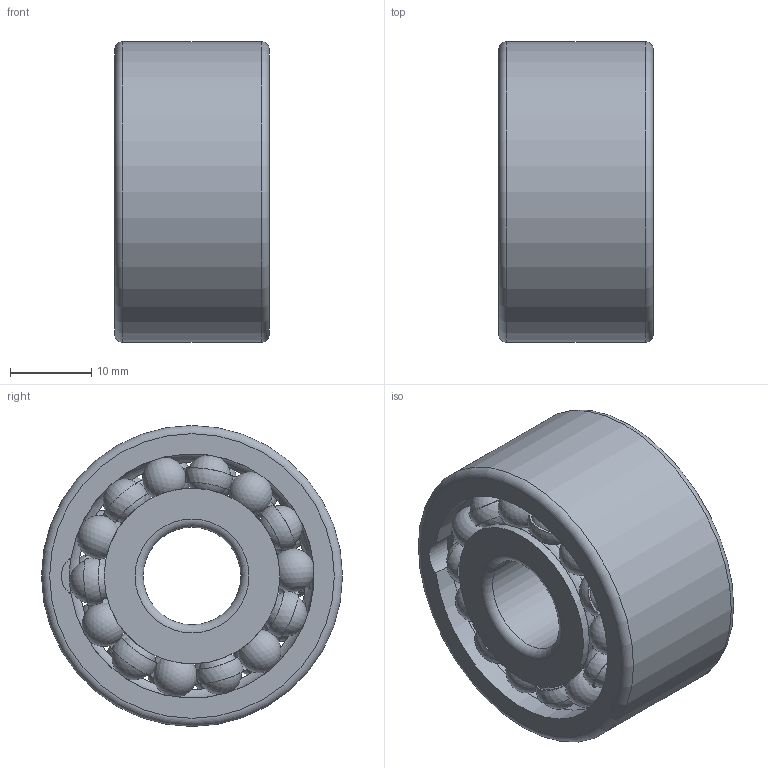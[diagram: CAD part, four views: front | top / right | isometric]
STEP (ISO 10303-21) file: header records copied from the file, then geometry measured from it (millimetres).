
FILE_DESCRIPTION(/* description */ (''),/* implementation_level */ '2;1');
FILE_NAME(/* name */ 'D:\BASISTA_PLOCHA\PARAMETRICKE PRE STP\STEP-PRE BELESTAKA\Dvojradové guľkové ložiská s kosouhlým stykom-je\3301E.stp',/* time_stamp */ '2020-02-28T14:50:30+01:00',/* author */ ('OUBASISTA'),/* organization */ (''),/* preprocessor_version */ 'ST-DEVELOPER v17.2',/* originating_system */ 'Autodesk Inventor 2019',/* authorisation */ '');
FILE_SCHEMA (('AUTOMOTIVE_DESIGN { 1 0 10303 214 3 1 1 }'));
Length unit declared in the file: millimetre
Products named in the file (5): 3301E; 3301E-02; 3301E-cage; 3301E-ball; 3301E-01
Assembly tree (32 placements, depth 2):
  3301E
    3301E-02
    3301E-cage  x2
    3301E-ball  x28
    3301E-01
Bounding box: 19 x 37 x 37 mm (x, y, z)
Volume: 13845.4 mm3; surface area: 10583.7 mm2
Topology: 32 solids, 32 shells, 305 faces, 863 edges, 562 vertices
Faces by surface type: bspline 140, sphere 84, cylinder 40, plane 33, torus 8
Full cylindrical faces by diameter (mm): 12 x1, 19.45 x1, 21.59 x1, 26.6 x2, 28.01 x1, 30.043 x1, 37 x1
Entity records: 8770 total; most frequent: CARTESIAN_POINT 4912, ORIENTED_EDGE 854, DIRECTION 621, EDGE_CURVE 427, VERTEX_POINT 282, AXIS2_PLACEMENT_3D 263, B_SPLINE_CURVE_WITH_KNOTS 187, EDGE_LOOP 155
